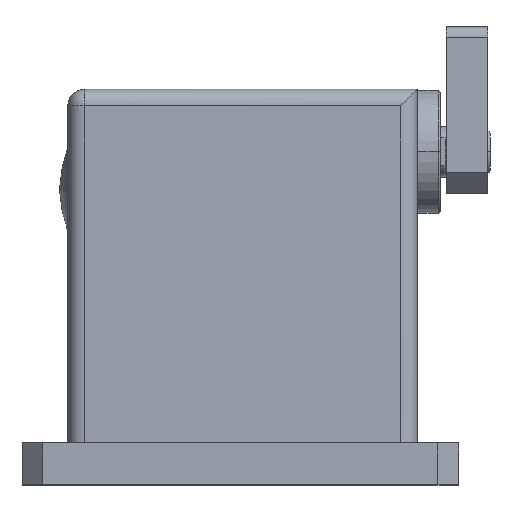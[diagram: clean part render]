
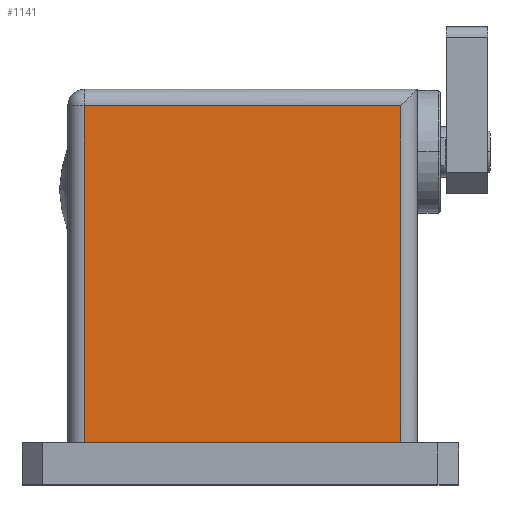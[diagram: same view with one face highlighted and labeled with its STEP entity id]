
A CAD part, top view. The second image highlights one B-rep face of the part: STEP entity #1141.
In plain terms, the highlighted planar face has unit normal (0, 0, 1).
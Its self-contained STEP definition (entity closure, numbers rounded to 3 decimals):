
#6 = EDGE_LOOP ( 'NONE', ( #1282, #1207, #1211, #1209 ) ) ;
#1141 = ADVANCED_FACE ( 'NONE', ( #4634 ), #4633, .F. ) ;
#1205 = VERTEX_POINT ( 'NONE', #4712 ) ;
#1206 = VERTEX_POINT ( 'NONE', #4711 ) ;
#1207 = ORIENTED_EDGE ( 'NONE', *, *, #1212, .T. ) ;
#1208 = EDGE_CURVE ( 'NONE', #1284, #1206, #4710, .T. ) ;
#1209 = ORIENTED_EDGE ( 'NONE', *, *, #1210, .T. ) ;
#1210 = EDGE_CURVE ( 'NONE', #1206, #1283, #4769, .T. ) ;
#1211 = ORIENTED_EDGE ( 'NONE', *, *, #1208, .T. ) ;
#1212 = EDGE_CURVE ( 'NONE', #1205, #1284, #4765, .T. ) ;
#1281 = EDGE_CURVE ( 'NONE', #1283, #1205, #4846, .T. ) ;
#1282 = ORIENTED_EDGE ( 'NONE', *, *, #1281, .T. ) ;
#1283 = VERTEX_POINT ( 'NONE', #4842 ) ;
#1284 = VERTEX_POINT ( 'NONE', #4841 ) ;
#4629 = DIRECTION ( 'NONE',  ( -1., 0., 0. ) ) ;
#4630 = DIRECTION ( 'NONE',  ( 0., 0., -1. ) ) ;
#4631 = CARTESIAN_POINT ( 'NONE',  ( 11., 95., 80. ) ) ;
#4632 = AXIS2_PLACEMENT_3D ( 'NONE', #4631, #4630, #4629 ) ;
#4633 = PLANE ( 'NONE',  #4632 ) ;
#4634 = FACE_OUTER_BOUND ( 'NONE', #6, .T. ) ;
#4707 = DIRECTION ( 'NONE',  ( -1., 0., 0. ) ) ;
#4708 = VECTOR ( 'NONE', #4707, 1000. ) ;
#4709 = CARTESIAN_POINT ( 'NONE',  ( 11., 91., 80. ) ) ;
#4710 = LINE ( 'NONE', #4709, #4708 ) ;
#4711 = CARTESIAN_POINT ( 'NONE',  ( 15., 91., 80. ) ) ;
#4712 = CARTESIAN_POINT ( 'NONE',  ( 91., 10., 80. ) ) ;
#4762 = DIRECTION ( 'NONE',  ( 0., 1., 0. ) ) ;
#4763 = VECTOR ( 'NONE', #4762, 1000. ) ;
#4764 = CARTESIAN_POINT ( 'NONE',  ( 91., 95., 80. ) ) ;
#4765 = LINE ( 'NONE', #4764, #4763 ) ;
#4766 = DIRECTION ( 'NONE',  ( 0., -1., 0. ) ) ;
#4767 = VECTOR ( 'NONE', #4766, 1000. ) ;
#4768 = CARTESIAN_POINT ( 'NONE',  ( 15., 95., 80. ) ) ;
#4769 = LINE ( 'NONE', #4768, #4767 ) ;
#4841 = CARTESIAN_POINT ( 'NONE',  ( 91., 91., 80. ) ) ;
#4842 = CARTESIAN_POINT ( 'NONE',  ( 15., 10., 80. ) ) ;
#4843 = DIRECTION ( 'NONE',  ( 1., 0., 0. ) ) ;
#4844 = VECTOR ( 'NONE', #4843, 1000. ) ;
#4845 = CARTESIAN_POINT ( 'NONE',  ( 11., 10., 80. ) ) ;
#4846 = LINE ( 'NONE', #4845, #4844 ) ;
